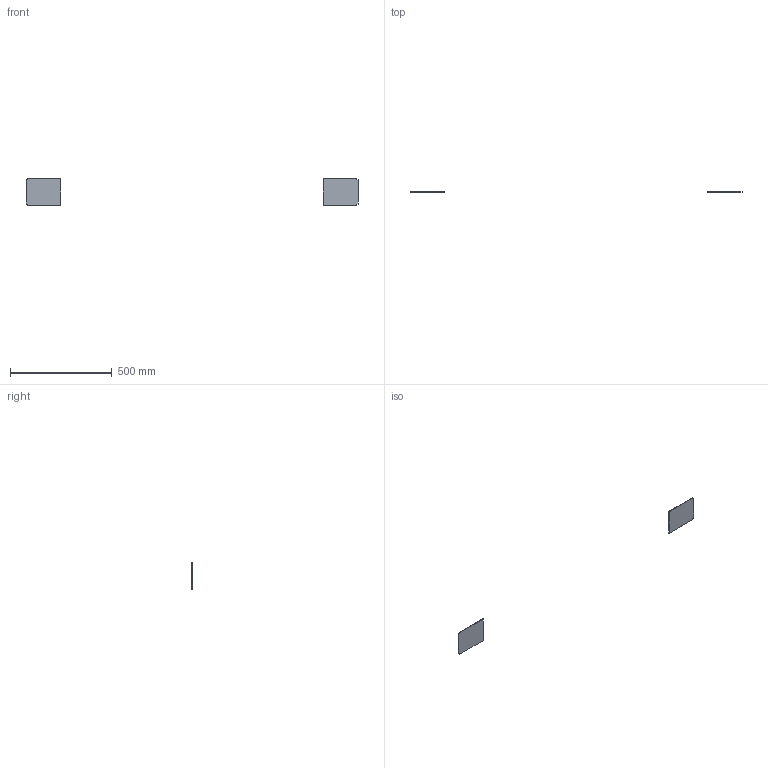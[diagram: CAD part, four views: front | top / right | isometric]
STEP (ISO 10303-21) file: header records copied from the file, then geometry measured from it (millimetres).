
FILE_DESCRIPTION(/* description */ (''),/* implementation_level */ '2;1');
FILE_NAME(/* name */ 'FR6B38~1',/* time_stamp */ '2014-02-14T19:32:36+01:00',/* author */ (''),/* organization */ (''),/* preprocessor_version */ 'ST-DEVELOPER v14',/* originating_system */ '',/* authorisation */ '');
FILE_SCHEMA (('AUTOMOTIVE_DESIGN'));
Length unit declared in the file: millimetre
Products named in the file (1): Document
Bounding box: 1630 x 3 x 130 mm (x, y, z)
Volume: 132270 mm3; surface area: 91780 mm2
Topology: 2 solids, 2 shells, 20 faces, 48 edges, 32 vertices
Faces by surface type: plane 20
Entity records: 1067 total; most frequent: CARTESIAN_POINT 342, B_SPLINE_CURVE_WITH_KNOTS 144, ORIENTED_EDGE 96, PCURVE 96, DEFINITIONAL_REPRESENTATION 96, SURFACE_CURVE 48, EDGE_CURVE 48, VERTEX_POINT 32
